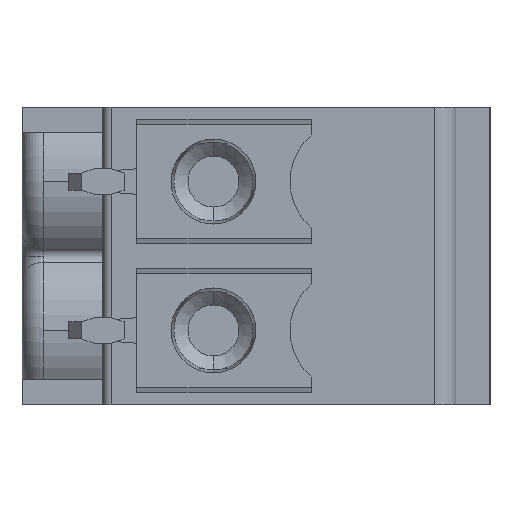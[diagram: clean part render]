
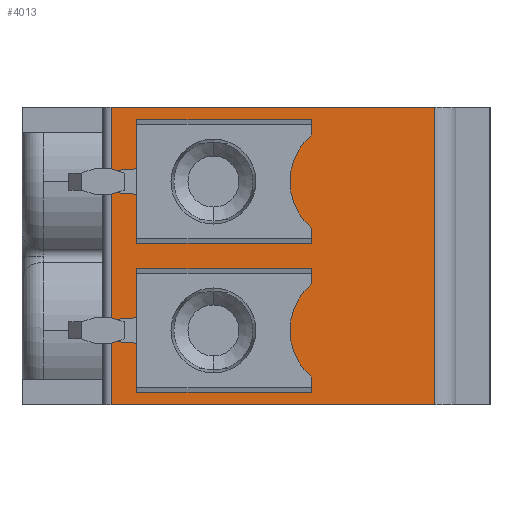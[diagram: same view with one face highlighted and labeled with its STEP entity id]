
A CAD part, left-side view. The second image highlights one B-rep face of the part: STEP entity #4013.
In plain terms, the highlighted planar face has unit normal (-1, 0, 0).
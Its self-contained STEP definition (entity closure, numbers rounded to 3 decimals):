
#297 = EDGE_CURVE ( 'NONE', #298, #306, #1229, .T. ) ;
#298 = VERTEX_POINT ( 'NONE', #1220 ) ;
#306 = VERTEX_POINT ( 'NONE', #1278 ) ;
#314 = VERTEX_POINT ( 'NONE', #1262 ) ;
#315 = VERTEX_POINT ( 'NONE', #1261 ) ;
#337 = ORIENTED_EDGE ( 'NONE', *, *, #3856, .F. ) ;
#343 = VERTEX_POINT ( 'NONE', #1352 ) ;
#345 = VERTEX_POINT ( 'NONE', #1350 ) ;
#347 = EDGE_CURVE ( 'NONE', #348, #343, #1349, .T. ) ;
#348 = VERTEX_POINT ( 'NONE', #1345 ) ;
#349 = ORIENTED_EDGE ( 'NONE', *, *, #347, .T. ) ;
#350 = VERTEX_POINT ( 'NONE', #1344 ) ;
#352 = EDGE_CURVE ( 'NONE', #345, #348, #1341, .T. ) ;
#354 = ORIENTED_EDGE ( 'NONE', *, *, #352, .T. ) ;
#358 = ORIENTED_EDGE ( 'NONE', *, *, #297, .T. ) ;
#368 = EDGE_CURVE ( 'NONE', #350, #314, #1320, .T. ) ;
#369 = EDGE_LOOP ( 'NONE', ( #354, #349, #337, #452, #439, #3077 ) ) ;
#372 = EDGE_CURVE ( 'NONE', #306, #403, #1378, .T. ) ;
#374 = ORIENTED_EDGE ( 'NONE', *, *, #372, .T. ) ;
#384 = ORIENTED_EDGE ( 'NONE', *, *, #389, .F. ) ;
#389 = EDGE_CURVE ( 'NONE', #298, #3966, #1413, .T. ) ;
#394 = EDGE_CURVE ( 'NONE', #3966, #403, #1403, .T. ) ;
#401 = ORIENTED_EDGE ( 'NONE', *, *, #394, .F. ) ;
#403 = VERTEX_POINT ( 'NONE', #1387 ) ;
#404 = VERTEX_POINT ( 'NONE', #1386 ) ;
#415 = EDGE_CURVE ( 'NONE', #315, #314, #1441, .T. ) ;
#424 = EDGE_CURVE ( 'NONE', #3840, #350, #1421, .T. ) ;
#434 = EDGE_CURVE ( 'NONE', #436, #3864, #1473, .T. ) ;
#436 = VERTEX_POINT ( 'NONE', #1468 ) ;
#439 = ORIENTED_EDGE ( 'NONE', *, *, #3823, .T. ) ;
#452 = ORIENTED_EDGE ( 'NONE', *, *, #434, .F. ) ;
#1220 = CARTESIAN_POINT ( 'NONE',  ( -3.65, 8.9, 0. ) ) ;
#1221 = DIRECTION ( 'NONE',  ( 0., 0., -1. ) ) ;
#1222 = VECTOR ( 'NONE', #1221, 1000. ) ;
#1223 = CARTESIAN_POINT ( 'NONE',  ( -3.65, 8.9, -7. ) ) ;
#1229 = LINE ( 'NONE', #1223, #1222 ) ;
#1261 = CARTESIAN_POINT ( 'NONE',  ( -3.65, 8.3, -3.8 ) ) ;
#1262 = CARTESIAN_POINT ( 'NONE',  ( -3.65, 8.3, -6.7 ) ) ;
#1278 = CARTESIAN_POINT ( 'NONE',  ( -3.65, 8.9, -7. ) ) ;
#1320 = LINE ( 'NONE', #1326, #1380 ) ;
#1326 = CARTESIAN_POINT ( 'NONE',  ( -3.65, 4., -6.7 ) ) ;
#1338 = DIRECTION ( 'NONE',  ( 0., 0., -1. ) ) ;
#1339 = VECTOR ( 'NONE', #1338, 1000. ) ;
#1340 = CARTESIAN_POINT ( 'NONE',  ( -3.65, 4.2, 0. ) ) ;
#1341 = LINE ( 'NONE', #1340, #1339 ) ;
#1344 = CARTESIAN_POINT ( 'NONE',  ( -3.65, 4.2, -6.7 ) ) ;
#1345 = CARTESIAN_POINT ( 'NONE',  ( -3.65, 4.2, -3.2 ) ) ;
#1346 = DIRECTION ( 'NONE',  ( 0., 1., 0. ) ) ;
#1347 = VECTOR ( 'NONE', #1346, 1000. ) ;
#1348 = CARTESIAN_POINT ( 'NONE',  ( -3.65, 4., -3.2 ) ) ;
#1349 = LINE ( 'NONE', #1348, #1347 ) ;
#1350 = CARTESIAN_POINT ( 'NONE',  ( -3.65, 4.2, -2.845 ) ) ;
#1352 = CARTESIAN_POINT ( 'NONE',  ( -3.65, 8.3, -3.2 ) ) ;
#1375 = DIRECTION ( 'NONE',  ( 0., -1., 0. ) ) ;
#1376 = VECTOR ( 'NONE', #1375, 1000. ) ;
#1377 = CARTESIAN_POINT ( 'NONE',  ( -3.65, 1.3, -7. ) ) ;
#1378 = LINE ( 'NONE', #1377, #1376 ) ;
#1379 = DIRECTION ( 'NONE',  ( 0., 1., 0. ) ) ;
#1380 = VECTOR ( 'NONE', #1379, 1000. ) ;
#1386 = CARTESIAN_POINT ( 'NONE',  ( -3.65, 4.2, -0.655 ) ) ;
#1387 = CARTESIAN_POINT ( 'NONE',  ( -3.65, 1.3, -7. ) ) ;
#1400 = DIRECTION ( 'NONE',  ( 0., 0., -1. ) ) ;
#1401 = VECTOR ( 'NONE', #1400, 1000. ) ;
#1402 = CARTESIAN_POINT ( 'NONE',  ( -3.65, 1.3, 3.5 ) ) ;
#1403 = LINE ( 'NONE', #1402, #1401 ) ;
#1410 = DIRECTION ( 'NONE',  ( 0., -1., 0. ) ) ;
#1411 = VECTOR ( 'NONE', #1410, 1000. ) ;
#1412 = CARTESIAN_POINT ( 'NONE',  ( -3.65, 1.3, 0. ) ) ;
#1413 = LINE ( 'NONE', #1412, #1411 ) ;
#1418 = DIRECTION ( 'NONE',  ( 0., 0., -1. ) ) ;
#1419 = VECTOR ( 'NONE', #1418, 1000. ) ;
#1420 = CARTESIAN_POINT ( 'NONE',  ( -3.65, 4.2, 3.5 ) ) ;
#1421 = LINE ( 'NONE', #1420, #1419 ) ;
#1438 = DIRECTION ( 'NONE',  ( 0., 0., -1. ) ) ;
#1439 = VECTOR ( 'NONE', #1438, 1000. ) ;
#1440 = CARTESIAN_POINT ( 'NONE',  ( -3.65, 8.3, 3.5 ) ) ;
#1441 = LINE ( 'NONE', #1440, #1439 ) ;
#1468 = CARTESIAN_POINT ( 'NONE',  ( -3.65, 4.2, -0.3 ) ) ;
#1470 = DIRECTION ( 'NONE',  ( 0., 1., 0. ) ) ;
#1471 = VECTOR ( 'NONE', #1470, 1000. ) ;
#1472 = CARTESIAN_POINT ( 'NONE',  ( -3.65, 4., -0.3 ) ) ;
#1473 = LINE ( 'NONE', #1472, #1471 ) ;
#2318 = DIRECTION ( 'NONE',  ( 0., 0., -1. ) ) ;
#2319 = DIRECTION ( 'NONE',  ( -1., 0., 0. ) ) ;
#2320 = CARTESIAN_POINT ( 'NONE',  ( -3.65, 3.25, -1.75 ) ) ;
#2321 = AXIS2_PLACEMENT_3D ( 'NONE', #2320, #2319, #2318 ) ;
#2322 = CIRCLE ( 'NONE', #2321, 1.45 ) ;
#2359 = DIRECTION ( 'NONE',  ( 0., 0., -1. ) ) ;
#2360 = VECTOR ( 'NONE', #2359, 1000. ) ;
#2361 = CARTESIAN_POINT ( 'NONE',  ( -3.65, 4.2, 0. ) ) ;
#2362 = LINE ( 'NONE', #2361, #2360 ) ;
#2364 = CARTESIAN_POINT ( 'NONE',  ( -3.65, 8.3, 0. ) ) ;
#2365 = LINE ( 'NONE', #2364, #2427 ) ;
#2393 = CARTESIAN_POINT ( 'NONE',  ( -3.65, 4.2, -6.345 ) ) ;
#2413 = CARTESIAN_POINT ( 'NONE',  ( -3.65, 8.3, -0.3 ) ) ;
#2426 = DIRECTION ( 'NONE',  ( 0., 0., -1. ) ) ;
#2427 = VECTOR ( 'NONE', #2426, 1000. ) ;
#2465 = CARTESIAN_POINT ( 'NONE',  ( -3.65, 4.2, -4.155 ) ) ;
#2488 = CARTESIAN_POINT ( 'NONE',  ( -3.65, 4.2, -3.8 ) ) ;
#2557 = DIRECTION ( 'NONE',  ( 0., 0., -1. ) ) ;
#2558 = DIRECTION ( 'NONE',  ( -1., 0., 0. ) ) ;
#2559 = CARTESIAN_POINT ( 'NONE',  ( -3.65, 3.25, -5.25 ) ) ;
#2560 = AXIS2_PLACEMENT_3D ( 'NONE', #2559, #2558, #2557 ) ;
#2561 = CIRCLE ( 'NONE', #2560, 1.45 ) ;
#2584 = DIRECTION ( 'NONE',  ( 0., 1., 0. ) ) ;
#2585 = VECTOR ( 'NONE', #2584, 1000. ) ;
#2586 = CARTESIAN_POINT ( 'NONE',  ( -3.65, 4., -3.8 ) ) ;
#2587 = LINE ( 'NONE', #2586, #2585 ) ;
#2630 = CARTESIAN_POINT ( 'NONE',  ( -3.65, 1.3, 0. ) ) ;
#2631 = DIRECTION ( 'NONE',  ( 0., 0., -1. ) ) ;
#2632 = VECTOR ( 'NONE', #2631, 1000. ) ;
#2633 = CARTESIAN_POINT ( 'NONE',  ( -3.65, 4.2, 3.5 ) ) ;
#2634 = LINE ( 'NONE', #2633, #2632 ) ;
#2726 = DIRECTION ( 'NONE',  ( 0., 0., -1. ) ) ;
#2727 = DIRECTION ( 'NONE',  ( 1., 0., 0. ) ) ;
#2728 = AXIS2_PLACEMENT_3D ( 'NONE', #2748, #2727, #2726 ) ;
#2747 = PLANE ( 'NONE',  #2728 ) ;
#2748 = CARTESIAN_POINT ( 'NONE',  ( -3.65, 1.3, 3.5 ) ) ;
#2749 = FACE_BOUND ( 'NONE', #369, .T. ) ;
#2750 = FACE_OUTER_BOUND ( 'NONE', #3965, .T. ) ;
#2751 = FACE_BOUND ( 'NONE', #3919, .T. ) ;
#3077 = ORIENTED_EDGE ( 'NONE', *, *, #3815, .T. ) ;
#3815 = EDGE_CURVE ( 'NONE', #404, #345, #2322, .T. ) ;
#3823 = EDGE_CURVE ( 'NONE', #436, #404, #2362, .T. ) ;
#3840 = VERTEX_POINT ( 'NONE', #2393 ) ;
#3856 = EDGE_CURVE ( 'NONE', #3864, #343, #2365, .T. ) ;
#3864 = VERTEX_POINT ( 'NONE', #2413 ) ;
#3892 = VERTEX_POINT ( 'NONE', #2488 ) ;
#3913 = VERTEX_POINT ( 'NONE', #2465 ) ;
#3919 = EDGE_LOOP ( 'NONE', ( #4016, #4017, #4020, #3985, #3981, #3969 ) ) ;
#3929 = EDGE_CURVE ( 'NONE', #3913, #3840, #2561, .T. ) ;
#3946 = EDGE_CURVE ( 'NONE', #3892, #315, #2587, .T. ) ;
#3963 = EDGE_CURVE ( 'NONE', #3892, #3913, #2634, .T. ) ;
#3965 = EDGE_LOOP ( 'NONE', ( #401, #384, #358, #374 ) ) ;
#3966 = VERTEX_POINT ( 'NONE', #2630 ) ;
#3969 = ORIENTED_EDGE ( 'NONE', *, *, #415, .F. ) ;
#3981 = ORIENTED_EDGE ( 'NONE', *, *, #368, .T. ) ;
#3985 = ORIENTED_EDGE ( 'NONE', *, *, #424, .T. ) ;
#4013 = ADVANCED_FACE ( 'NONE', ( #2751, #2750, #2749 ), #2747, .F. ) ;
#4016 = ORIENTED_EDGE ( 'NONE', *, *, #3946, .F. ) ;
#4017 = ORIENTED_EDGE ( 'NONE', *, *, #3963, .T. ) ;
#4020 = ORIENTED_EDGE ( 'NONE', *, *, #3929, .T. ) ;
